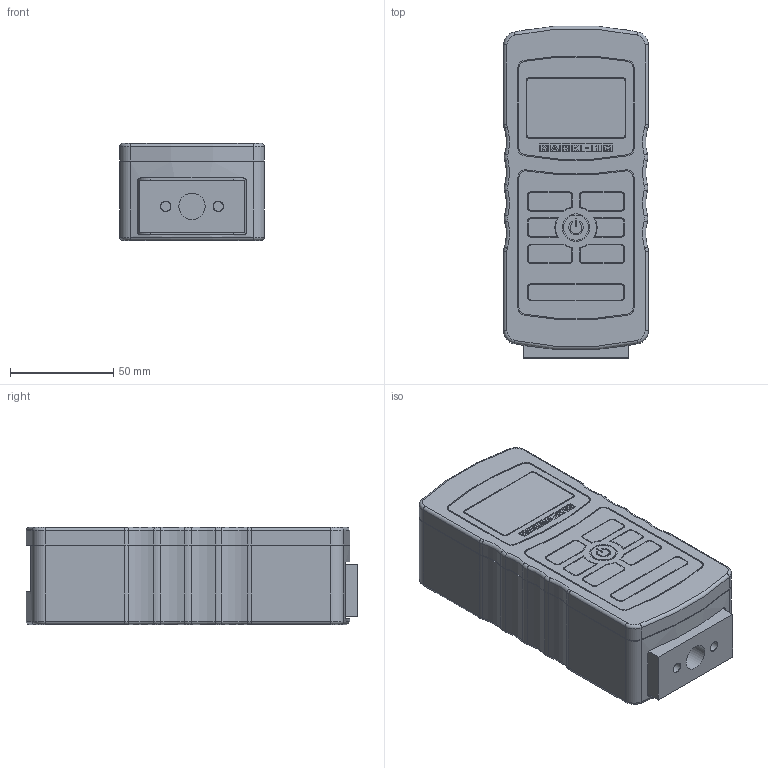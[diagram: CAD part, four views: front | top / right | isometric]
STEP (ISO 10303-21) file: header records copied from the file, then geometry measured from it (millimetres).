
FILE_DESCRIPTION((''),'2;1');
FILE_NAME('F:\CAD files\Itr\3D MARKETING MODELS\SERIES 5 1000 MARKETING MODEL.stp','2011-08-24T17:18:35',('mlampen'),(''),'Autodesk Inventor 2010','Autodesk Inventor 2010','');
FILE_SCHEMA(('AUTOMOTIVE_DESIGN { 1 0 10303 214 1 1 1 1 }'));
Length unit declared in the file: inch
Products named in the file (1): Part2
Bounding box: 69.85 x 160.39 x 46.91 mm (x, y, z)
Volume: 486922.1 mm3; surface area: 51771.8 mm2
Topology: 2 solids, 2 shells, 746 faces, 1869 edges, 1214 vertices
Faces by surface type: plane 337, cylinder 273, bspline 75, torus 52, cone 7, sphere 2
Full cylindrical faces by diameter (mm): 1.016 x10, 2.068 x2, 2.5 x1, 4.826 x6, 5.001 x2, 5.486 x2, 6.299 x1, 6.35 x2, 6.375 x1, 11.938 x1, 12.065 x1, 12.7 x1, 13.335 x1
Entity records: 22241 total; most frequent: CARTESIAN_POINT 4407, DIRECTION 3795, ORIENTED_EDGE 3576, EDGE_CURVE 1788, AXIS2_PLACEMENT_3D 1359, VERTEX_POINT 1179, VECTOR 1077, LINE 1077
